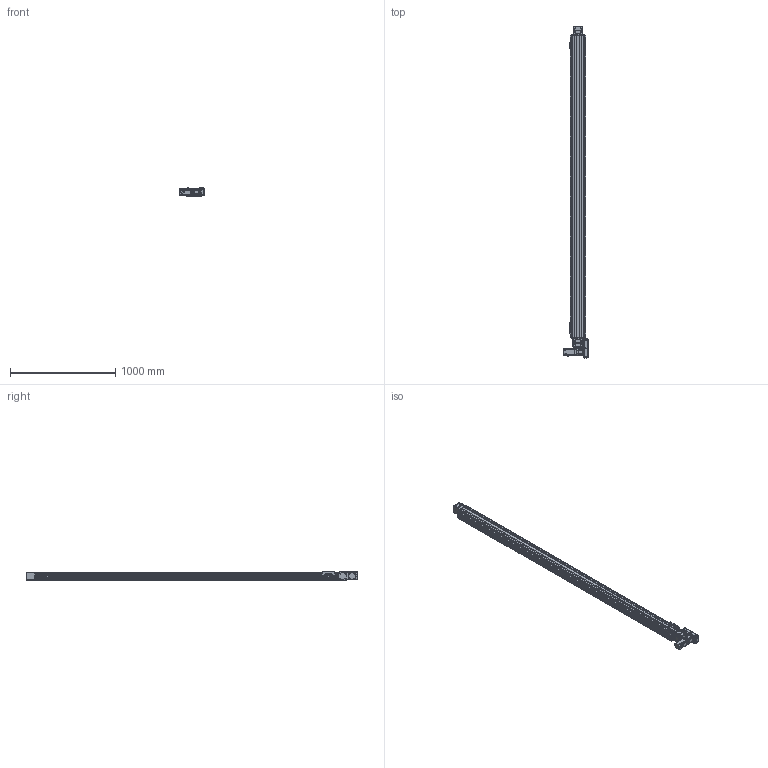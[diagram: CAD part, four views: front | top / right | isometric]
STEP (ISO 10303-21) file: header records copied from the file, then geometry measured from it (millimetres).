
FILE_DESCRIPTION(/* description */ (''),/* implementation_level */ '2;1');
FILE_NAME(/* name */ '\\192.168.0.160\disk1\HAN SHIN Master\B-설계부문\C-표준\B-2024년\BC02-표준도면\+로봇 개선표준도면\홈페이지 표준 도면\홈페이지 최종 작업 폴더\3D\HSB\HSB125\HSB125-R4G-N-2700-L.stp',/* time_stamp */ '2025-01-11T09:06:04+09:00',/* author */ ('user'),/* organization */ (''),/* preprocessor_version */ 'ST-DEVELOPER v18.1',/* originating_system */ 'Autodesk Inventor 2022',/* authorisation */ '');
FILE_SCHEMA (('AUTOMOTIVE_DESIGN { 1 0 10303 214 3 1 1 }'));
Products named in the file (32): HSB125-R4G-N-0500-L; BASE; REAR COVER; HSB125 FORNT HOUSUNG (Connecting); HSB160 REAR SHAFT-2; REAR SHAFT--2; HSB125 REAR HOUSUNG; TENSION PLATE; HSB160 ARC COVER; UPCOVER; hsr_ftht_A-M6F_grease_nipple_joint; NIPPLE CAP(신규); 6003ZZ; HSB125 TABLE (TEST); HG90STOPPER - 17L; SIDE COVER; PGX62-H-1_3; hg-kr43_; HSB125 END COVER; HSB160 SHAFT-1; NSK_6205; HSB160 BEARING OVER; HR120 SENSOR DOG; SENSOR BRK(EE-SX674A); EE_SX674A; HSB125 R; HR120 LR BELT COVER; HR160 ACRYL COVER - 1; HR160 ACRYL COVER - 1_1; HR160 ACRYL COVER - 1_2; HR120 LR MOTOR PLATE (400W)-사출; MOTOR PLATE - 200W
Assembly tree (53 placements, depth 3):
  HSB125-R4G-N-0500-L
    BASE
    REAR COVER  x2
    HSB125 FORNT HOUSUNG (Connecting)
    HSB160 REAR SHAFT-2
    REAR SHAFT--2
    HSB125 REAR HOUSUNG
    TENSION PLATE  x2
    HSB160 ARC COVER  x4
    HG90STOPPER - 17L  x4
    UPCOVER
    NIPPLE CAP(신규)  x4
    hsr_ftht_A-M6F_grease_nipple_joint  x4
    6003ZZ  x2
    HSB125 TABLE (TEST)
    SIDE COVER  x2
    PGX62-H-1_3
    hg-kr43_
    HSB125 END COVER
    HSB160 SHAFT-1
    NSK_6205  x2
    HSB160 BEARING OVER
    SENSOR BRK(EE-SX674A)  x3
    EE_SX674A  x3
    HR120 SENSOR DOG
    HSB125 R
      HR120 LR BELT COVER
      HR160 ACRYL COVER - 1
      HR160 ACRYL COVER - 1_1
      HR160 ACRYL COVER - 1_2  x2
      HR120 LR MOTOR PLATE (400W)-사출
      MOTOR PLATE - 200W
Bounding box: 233.3 x 3154.5 x 85 mm (x, y, z)
Volume: 9997460.7 mm3; surface area: 3460133.9 mm2
Topology: 117 solids, 117 shells, 6985 faces, 19566 edges, 12879 vertices
Faces by surface type: plane 5015, cylinder 1443, cone 367, sphere 72, torus 61, bspline 27
Full cylindrical faces by diameter (mm): 2.459 x74, 3 x20, 3.242 x60, 3.3 x5, 3.4 x40, 3.5 x6, 4 x9, 4.134 x38, 4.2 x10, 4.5 x37, 4.917 x38, 5 x20, 5.5 x55, 5.6 x4, 5.8 x4, 5.9 x8, 6 x12, 6.5 x8, 6.647 x30, 7 x1, 7.5 x24, 8 x4, 8.5 x4, 9 x4, 9.2 x4, 9.5 x27, 12 x2, 14 x1, 14.2 x1, 15 x4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
Entity records: 162436 total; most frequent: CARTESIAN_POINT 32264, ORIENTED_EDGE 27008, DIRECTION 26059, EDGE_CURVE 13504, LINE 9873, VECTOR 9873, VERTEX_POINT 8980, AXIS2_PLACEMENT_3D 8093
